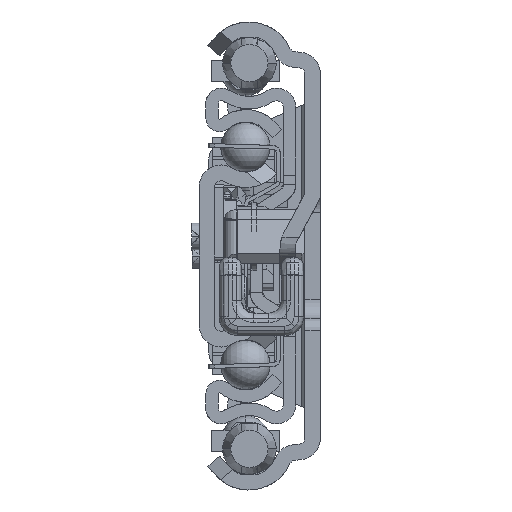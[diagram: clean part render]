
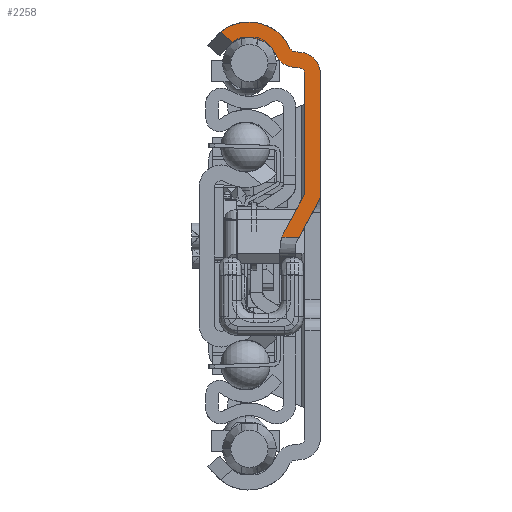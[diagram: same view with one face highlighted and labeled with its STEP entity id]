
A CAD part, left-side view. The second image highlights one B-rep face of the part: STEP entity #2258.
In plain terms, the highlighted planar face has unit normal (-1, 0, 0).
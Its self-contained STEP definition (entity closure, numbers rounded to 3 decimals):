
#1=DIRECTION('',(0.,-0.769,-0.639));
#2=VECTOR('',#1,2.575);
#3=CARTESIAN_POINT('',(0.,16.079,36.021));
#4=LINE('',#3,#2);
#5=CARTESIAN_POINT('',(0.,11.5,30.4));
#6=DIRECTION('',(1.,0.,0.));
#7=DIRECTION('',(0.,0.632,0.775));
#8=AXIS2_PLACEMENT_3D('',#5,#6,#7);
#10=DIRECTION('',(0.,-0.996,-0.087));
#11=VECTOR('',#10,0.904);
#12=CARTESIAN_POINT('',(0.,4.095,32.858));
#13=LINE('',#12,#11);
#14=CARTESIAN_POINT('',(0.,3.5,29.293));
#15=DIRECTION('',(-1.,0.,0.));
#16=DIRECTION('',(0.,-1.,0.));
#17=AXIS2_PLACEMENT_3D('',#14,#15,#16);
#19=CARTESIAN_POINT('',(0.,2.5,9.942));
#20=DIRECTION('',(1.,0.,0.));
#21=DIRECTION('',(0.,-1.,0.));
#22=AXIS2_PLACEMENT_3D('',#19,#20,#21);
#24=DIRECTION('',(0.,-1.,0.));
#25=VECTOR('',#24,2.78);
#26=CARTESIAN_POINT('',(0.,6.177,3.04));
#27=LINE('',#26,#25);
#28=CARTESIAN_POINT('',(0.,0.5,1.099));
#29=DIRECTION('',(-1.,0.,0.));
#30=DIRECTION('',(0.,0.879,0.477));
#31=AXIS2_PLACEMENT_3D('',#28,#29,#30);
#33=DIRECTION('',(0.,0.477,-0.879));
#34=VECTOR('',#33,6.873);
#35=CARTESIAN_POINT('',(0.,2.5,10.));
#36=LINE('',#35,#34);
#37=DIRECTION('',(0.,0.,1.));
#38=VECTOR('',#37,19.293);
#39=CARTESIAN_POINT('',(0.,2.5,10.));
#40=LINE('',#39,#38);
#41=DIRECTION('',(0.,0.996,0.087));
#42=VECTOR('',#41,0.904);
#43=CARTESIAN_POINT('',(0.,3.413,30.289));
#44=LINE('',#43,#42);
#45=CARTESIAN_POINT('',(0.,4.008,33.854));
#46=DIRECTION('',(-1.,0.,0.));
#47=DIRECTION('',(0.,0.908,-0.419));
#48=AXIS2_PLACEMENT_3D('',#45,#46,#47);
#50=CARTESIAN_POINT('',(0.,11.5,30.4));
#51=DIRECTION('',(-1.,0.,0.));
#52=DIRECTION('',(0.,-0.908,0.419));
#53=AXIS2_PLACEMENT_3D('',#50,#51,#52);
#99=CARTESIAN_POINT('',(0.,14.098,34.377));
#147=CARTESIAN_POINT('',(0.,3.5,29.293));
#148=DIRECTION('',(1.,0.,0.));
#149=DIRECTION('',(0.,-0.087,0.996));
#150=AXIS2_PLACEMENT_3D('',#147,#148,#149);
#636=DIRECTION('',(0.,0.,1.));
#637=VECTOR('',#636,19.351);
#638=CARTESIAN_POINT('',(0.,0.,9.942));
#639=LINE('',#638,#637);
#957=CARTESIAN_POINT('',(0.,16.079,36.021));
#1394=CARTESIAN_POINT('',(0.,4.008,33.854));
#1395=DIRECTION('',(1.,0.,0.));
#1396=DIRECTION('',(0.,0.087,-0.996));
#1397=AXIS2_PLACEMENT_3D('',#1394,#1395,#1396);
#1491=CARTESIAN_POINT('',(0.,3.397,3.04));
#1496=DIRECTION('',(0.,-0.477,0.879));
#1497=VECTOR('',#1496,6.495);
#1498=CARTESIAN_POINT('',(0.,3.397,3.04));
#1499=LINE('',#1498,#1497);
#1734=CARTESIAN_POINT('',(0.,3.413,30.289));
#1735=CARTESIAN_POINT('',(0.,2.5,29.293));
#1736=VERTEX_POINT('',#1734);
#1737=VERTEX_POINT('',#1735);
#1738=CARTESIAN_POINT('',(0.,4.095,32.858));
#1739=CARTESIAN_POINT('',(0.,4.916,33.436));
#1740=VERTEX_POINT('',#1738);
#1741=VERTEX_POINT('',#1739);
#1750=CARTESIAN_POINT('',(0.,7.186,32.389));
#1751=CARTESIAN_POINT('',(0.,4.313,30.368));
#1752=VERTEX_POINT('',#1750);
#1753=VERTEX_POINT('',#1751);
#1754=CARTESIAN_POINT('',(0.,0.,29.293));
#1755=CARTESIAN_POINT('',(0.,3.195,
32.78));
#1756=VERTEX_POINT('',#1754);
#1757=VERTEX_POINT('',#1755);
#1850=CARTESIAN_POINT('',(0.,2.5,10.));
#1851=VERTEX_POINT('',#1850);
#1910=CARTESIAN_POINT('',(0.,0.,9.942));
#1912=VERTEX_POINT('',#1910);
#1915=CARTESIAN_POINT('',(0.,0.302,8.751));
#1916=VERTEX_POINT('',#1915);
#1919=CARTESIAN_POINT('',(0.,5.775,3.958));
#1920=VERTEX_POINT('',#1919);
#1921=CARTESIAN_POINT('',(0.,6.177,3.04));
#1922=VERTEX_POINT('',#1921);
#1925=VERTEX_POINT('',#1491);
#2177=VERTEX_POINT('',#99);
#2185=VERTEX_POINT('',#957);
#2219=CARTESIAN_POINT('',(0.,0.,0.));
#2220=DIRECTION('',(1.,0.,0.));
#2221=DIRECTION('',(0.,-1.,0.));
#2222=AXIS2_PLACEMENT_3D('',#2219,#2220,#2221);
#2223=PLANE('',#2222);
#2225=ORIENTED_EDGE('',*,*,#2224,.F.);
#2227=ORIENTED_EDGE('',*,*,#2226,.T.);
#2229=ORIENTED_EDGE('',*,*,#2228,.F.);
#2231=ORIENTED_EDGE('',*,*,#2230,.T.);
#2233=ORIENTED_EDGE('',*,*,#2232,.F.);
#2235=ORIENTED_EDGE('',*,*,#2234,.F.);
#2237=ORIENTED_EDGE('',*,*,#2236,.T.);
#2239=ORIENTED_EDGE('',*,*,#2238,.F.);
#2241=ORIENTED_EDGE('',*,*,#2240,.F.);
#2243=ORIENTED_EDGE('',*,*,#2242,.F.);
#2245=ORIENTED_EDGE('',*,*,#2244,.F.);
#2247=ORIENTED_EDGE('',*,*,#2246,.T.);
#2249=ORIENTED_EDGE('',*,*,#2248,.F.);
#2251=ORIENTED_EDGE('',*,*,#2250,.T.);
#2253=ORIENTED_EDGE('',*,*,#2252,.F.);
#2255=ORIENTED_EDGE('',*,*,#2254,.T.);
#2256=EDGE_LOOP('',(#2225,#2227,#2229,#2231,#2233,#2235,#2237,#2239,#2241,#2243,
#2245,#2247,#2249,#2251,#2253,#2255));
#2257=FACE_OUTER_BOUND('',#2256,.F.);
#9=CIRCLE('',#8,7.25);
#18=CIRCLE('',#17,3.5);
#23=CIRCLE('',#22,2.5);
#32=CIRCLE('',#31,6.);
#49=CIRCLE('',#48,3.5);
#54=CIRCLE('',#53,4.75);
#151=CIRCLE('',#150,1.);
#1398=CIRCLE('',#1397,1.);
#2224=EDGE_CURVE('',#2185,#2177,#4,.T.);
#2226=EDGE_CURVE('',#2185,#1741,#9,.T.);
#2228=EDGE_CURVE('',#1740,#1741,#1398,.T.);
#2230=EDGE_CURVE('',#1740,#1757,#13,.T.);
#2232=EDGE_CURVE('',#1756,#1757,#18,.T.);
#2234=EDGE_CURVE('',#1912,#1756,#639,.T.);
#2236=EDGE_CURVE('',#1912,#1916,#23,.T.);
#2238=EDGE_CURVE('',#1925,#1916,#1499,.T.);
#2240=EDGE_CURVE('',#1922,#1925,#27,.T.);
#2242=EDGE_CURVE('',#1920,#1922,#32,.T.);
#2244=EDGE_CURVE('',#1851,#1920,#36,.T.);
#2246=EDGE_CURVE('',#1851,#1737,#40,.T.);
#2248=EDGE_CURVE('',#1736,#1737,#151,.T.);
#2250=EDGE_CURVE('',#1736,#1753,#44,.T.);
#2252=EDGE_CURVE('',#1752,#1753,#49,.T.);
#2254=EDGE_CURVE('',#1752,#2177,#54,.T.);
#2258=ADVANCED_FACE('',(#2257),#2223,.F.);
